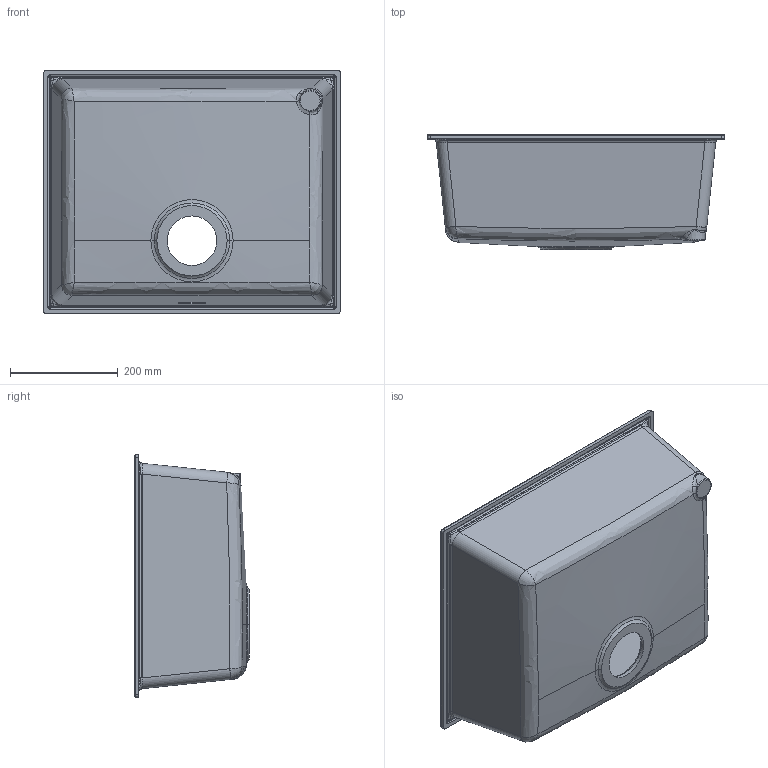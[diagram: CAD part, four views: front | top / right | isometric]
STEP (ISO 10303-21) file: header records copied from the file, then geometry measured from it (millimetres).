
FILE_DESCRIPTION((''),'2;1');
FILE_NAME('1150051','2024-12-09T14:20:42',('rafaelz'),('Audax d.o.o.'),'CREO PARAMETRIC BY PTC INC, 2020184','CREO PARAMETRIC BY PTC INC, 2020184','');
FILE_SCHEMA(('AP242_MANAGED_MODEL_BASED_3D_ENGINEERING_MIM_LF { 1 0 10303 442 1 1 4 }'));
Length unit declared in the file: millimetre
Products named in the file (1): 1150051
Bounding box: 550.12 x 212.92 x 450.12 mm (x, y, z)
Volume: 5203578.8 mm3; surface area: 1065136.3 mm2
Topology: 1 solids, 1 shells, 164 faces, 404 edges, 240 vertices
Faces by surface type: bspline 70, cylinder 40, plane 25, torus 20, cone 9
Entity records: 13107 total; most frequent: CARTESIAN_POINT 7665, ORIENTED_EDGE 788, DIRECTION 551, PRESENTATION_STYLE_ASSIGNMENT 408, STYLED_ITEM 408, CURVE_STYLE 402, EDGE_CURVE 394, COLOUR_RGB 321
